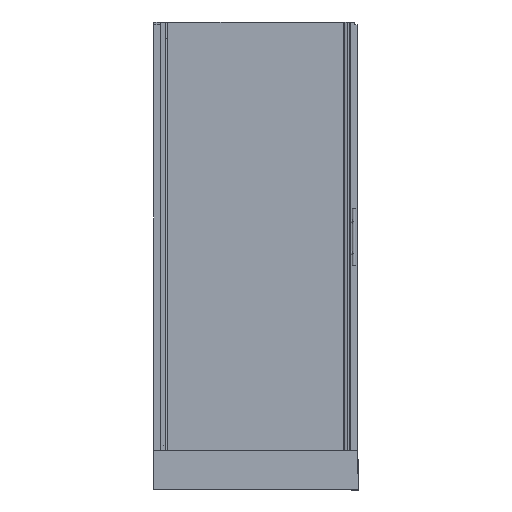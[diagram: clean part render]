
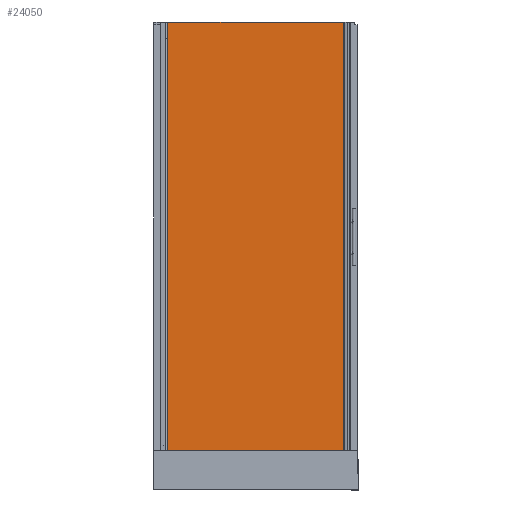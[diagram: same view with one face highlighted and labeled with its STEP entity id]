
A CAD part, left-side view. The second image highlights one B-rep face of the part: STEP entity #24050.
In plain terms, the highlighted planar face has unit normal (-1, 0, 0).
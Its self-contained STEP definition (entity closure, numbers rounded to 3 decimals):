
#23930=CARTESIAN_POINT('',(-865.853,-55.82,164.56));
#23931=VERTEX_POINT('',#23930);
#23938=CARTESIAN_POINT('',(-865.853,-55.82,2061.56));
#23939=VERTEX_POINT('',#23938);
#23940=CARTESIAN_POINT('',(-865.853,-55.82,2061.56));
#23941=DIRECTION('',(0.0,0.0,-1.0));
#23942=VECTOR('',#23941,1897.0);
#23943=LINE('',#23940,#23942);
#23944=EDGE_CURVE('',#23939,#23931,#23943,.T.);
#23969=CARTESIAN_POINT('',(-865.853,-848.82,164.56));
#23970=VERTEX_POINT('',#23969);
#23977=CARTESIAN_POINT('',(-865.853,-55.82,164.56));
#23978=DIRECTION('',(0.0,-1.0,0.0));
#23979=VECTOR('',#23978,793.);
#23980=LINE('',#23977,#23979);
#23981=EDGE_CURVE('',#23931,#23970,#23980,.T.);
#24016=CARTESIAN_POINT('',(-865.853,-848.82,2061.56));
#24017=VERTEX_POINT('',#24016);
#24018=CARTESIAN_POINT('',(-865.853,-55.82,2061.56));
#24019=DIRECTION('',(0.0,-1.0,0.0));
#24020=VECTOR('',#24019,793.);
#24021=LINE('',#24018,#24020);
#24022=EDGE_CURVE('',#23939,#24017,#24021,.T.);
#24034=CARTESIAN_POINT('',(-865.853,-26.17,69.71));
#24035=DIRECTION('',(-1.0,0.0,0.0));
#24036=DIRECTION('',(0.0,-1.0,0.0));
#24037=AXIS2_PLACEMENT_3D('',#24034,#24035,#24036);
#24038=PLANE('',#24037);
#24039=ORIENTED_EDGE('',*,*,#23944,.T.);
#24040=ORIENTED_EDGE('',*,*,#23981,.T.);
#24041=CARTESIAN_POINT('',(-865.853,-848.82,164.56));
#24042=DIRECTION('',(0.0,0.0,1.0));
#24043=VECTOR('',#24042,1897.0);
#24044=LINE('',#24041,#24043);
#24045=EDGE_CURVE('',#23970,#24017,#24044,.T.);
#24046=ORIENTED_EDGE('',*,*,#24045,.T.);
#24047=ORIENTED_EDGE('',*,*,#24022,.F.);
#24048=EDGE_LOOP('',(#24039,#24040,#24046,#24047));
#24049=FACE_OUTER_BOUND('',#24048,.T.);
#24050=ADVANCED_FACE('',(#24049),#24038,.T.);
